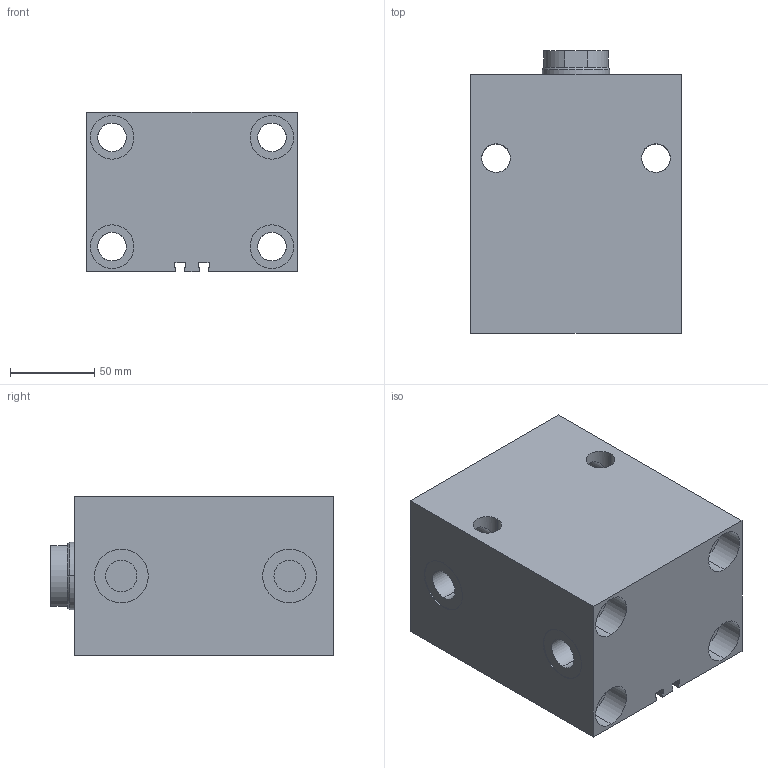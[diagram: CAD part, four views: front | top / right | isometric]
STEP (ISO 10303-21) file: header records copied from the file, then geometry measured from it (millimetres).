
FILE_DESCRIPTION (( 'STEP AP203' ), '1' );
FILE_NAME ('GERMA_Blockzylinder_700-063-063.STEP', '2016-07-26T09:27:14', ( '' ), ( '' ), 'SwSTEP 2.0', 'SolidWorks 2015', '' );
FILE_SCHEMA (( 'CONFIG_CONTROL_DESIGN' ));
Length unit declared in the file: millimetre
Products named in the file (3): Kolben_MT 70x-063_Kolben_MT DU.63-Hub63-IG; GERMA_Blockzylinder_700-063-063; GH-700-063_GH-700-063-063
Assembly tree (2 placements, depth 2):
  GERMA_Blockzylinder_700-063-063
    GH-700-063_GH-700-063-063
    Kolben_MT 70x-063_Kolben_MT DU.63-Hub63-IG
Bounding box: 125 x 168 x 95 mm (x, y, z)
Volume: 1473235.9 mm3; surface area: 196968.9 mm2
Topology: 2 solids, 2 shells, 136 faces, 322 edges, 198 vertices
Faces by surface type: cylinder 75, plane 47, cone 14
Entity records: 4210 total; most frequent: CARTESIAN_POINT 751, DIRECTION 695, ORIENTED_EDGE 632, EDGE_CURVE 316, AXIS2_PLACEMENT_3D 270, VERTEX_POINT 198, EDGE_LOOP 170, LINE 155
